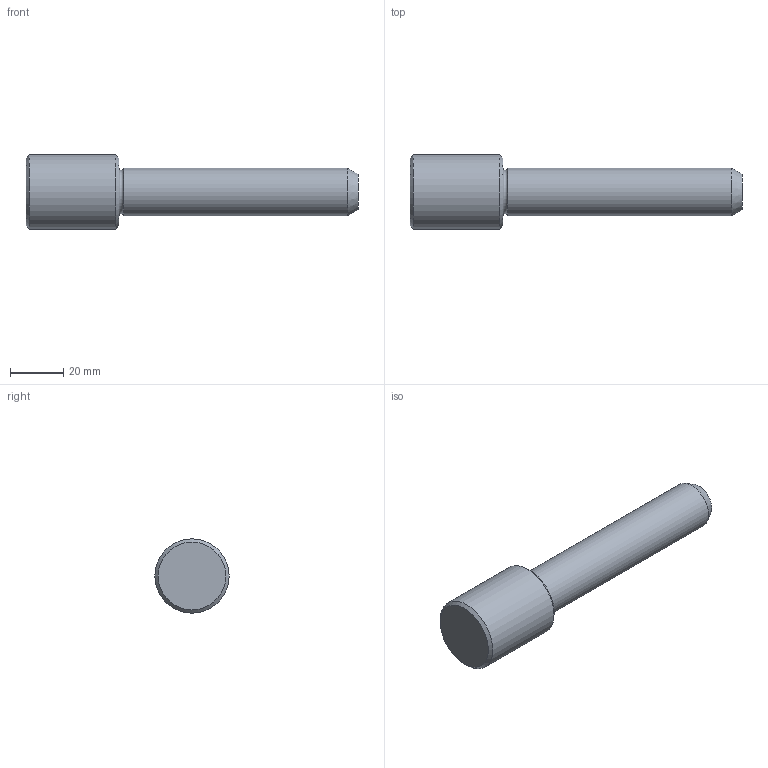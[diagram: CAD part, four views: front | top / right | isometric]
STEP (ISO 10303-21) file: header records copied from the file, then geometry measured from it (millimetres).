
FILE_DESCRIPTION(/* description */ ('Impex Ready, www.impex-ready.pl'),/* implementation_level */ '2;1');
FILE_NAME(/* name */ 'C:\Users\VIKKY\Nextcloud\SM\projekt 10 - części na stronę internetową\Pliki_3D_new\286 Słupy C3\286 C3_STEP\C318125.ipt.step',/* time_stamp */ '2021-12-21T12:00:52+01:00',/* author */ ('SM'),/* organization */ (''),/* preprocessor_version */ 'ST-DEVELOPER v18.1',/* originating_system */ 'Autodesk Inventor 2021',/* authorisation */ '');
FILE_SCHEMA (('AUTOMOTIVE_DESIGN { 1 0 10303 214 3 1 1 }'));
Length unit declared in the file: millimetre
Products named in the file (1): C318125
Bounding box: 125 x 28 x 28 mm (x, y, z)
Volume: 44037.7 mm3; surface area: 9210 mm2
Topology: 1 solids, 1 shells, 9 faces, 18 edges, 12 vertices
Faces by surface type: cone 3, plane 3, cylinder 2, torus 1
Full cylindrical faces by diameter (mm): 18 x1, 28 x1
Entity records: 313 total; most frequent: DIRECTION 51, CARTESIAN_POINT 40, ORIENTED_EDGE 36, AXIS2_PLACEMENT_3D 23, EDGE_CURVE 18, CIRCLE 13, VERTEX_POINT 12, EDGE_LOOP 10
